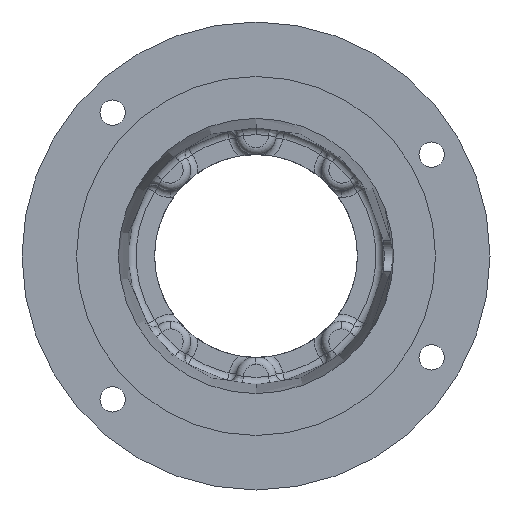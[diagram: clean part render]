
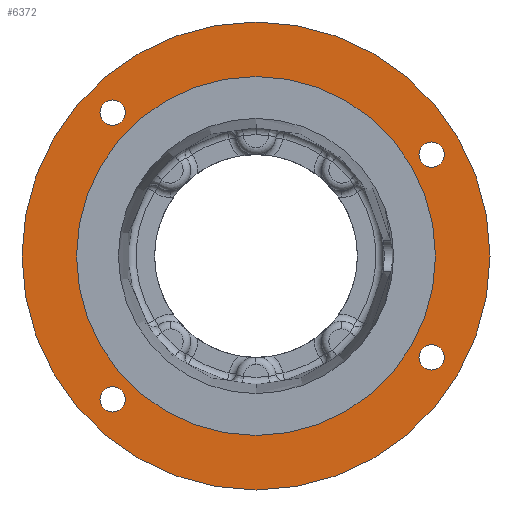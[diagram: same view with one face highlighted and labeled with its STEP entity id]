
A CAD part, front view. The second image highlights one B-rep face of the part: STEP entity #6372.
In plain terms, the highlighted planar face has unit normal (0, -1, 0).
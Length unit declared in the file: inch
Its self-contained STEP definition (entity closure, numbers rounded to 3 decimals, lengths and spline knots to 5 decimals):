
#63 = DIRECTION ( 'NONE',  ( 0., 1., 0. ) ) ;
#68 = EDGE_CURVE ( 'NONE', #7101, #4045, #6628, .T. ) ;
#113 = CARTESIAN_POINT ( 'NONE',  ( -2.21397, 0., 0. ) ) ;
#128 = DIRECTION ( 'NONE',  ( 0., 0., 1. ) ) ;
#155 = DIRECTION ( 'NONE',  ( 0., 1., 0. ) ) ;
#190 = EDGE_CURVE ( 'NONE', #1614, #5548, #936, .T. ) ;
#264 = AXIS2_PLACEMENT_3D ( 'NONE', #7263, #2777, #6610 ) ;
#424 = AXIS2_PLACEMENT_3D ( 'NONE', #880, #5351, #1505 ) ;
#451 = EDGE_CURVE ( 'NONE', #5495, #2427, #2551, .T. ) ;
#616 = EDGE_LOOP ( 'NONE', ( #7088, #6331 ) ) ;
#786 = CARTESIAN_POINT ( 'NONE',  ( -2.2981, 0., -2.2981 ) ) ;
#843 = FACE_BOUND ( 'NONE', #616, .T. ) ;
#880 = CARTESIAN_POINT ( 'NONE',  ( 0., 0., 0. ) ) ;
#927 = EDGE_LOOP ( 'NONE', ( #4183, #1654 ) ) ;
#936 = CIRCLE ( 'NONE', #1637, 2.876 ) ;
#947 = ORIENTED_EDGE ( 'NONE', *, *, #5188, .T. ) ;
#1006 = CARTESIAN_POINT ( 'NONE',  ( 2.81458, 0., 1.625 ) ) ;
#1050 = ORIENTED_EDGE ( 'NONE', *, *, #5774, .T. ) ;
#1086 = AXIS2_PLACEMENT_3D ( 'NONE', #3175, #7666, #3837 ) ;
#1094 = AXIS2_PLACEMENT_3D ( 'NONE', #5175, #1347, #5820 ) ;
#1168 = EDGE_LOOP ( 'NONE', ( #1050, #947 ) ) ;
#1347 = DIRECTION ( 'NONE',  ( 0., 1., 0. ) ) ;
#1505 = DIRECTION ( 'NONE',  ( 0., 0., -1. ) ) ;
#1614 = VERTEX_POINT ( 'NONE', #5177 ) ;
#1621 = DIRECTION ( 'NONE',  ( 0., 0., 1. ) ) ;
#1637 = AXIS2_PLACEMENT_3D ( 'NONE', #7444, #2956, #6789 ) ;
#1654 = ORIENTED_EDGE ( 'NONE', *, *, #5558, .F. ) ;
#1677 = DIRECTION ( 'NONE',  ( 0., -1., 0. ) ) ;
#1742 = EDGE_CURVE ( 'NONE', #2427, #5495, #6767, .T. ) ;
#1767 = CARTESIAN_POINT ( 'NONE',  ( -2.2981, 0., 2.2981 ) ) ;
#2094 = VERTEX_POINT ( 'NONE', #5784 ) ;
#2177 = DIRECTION ( 'NONE',  ( 0., -1., 0. ) ) ;
#2212 = ORIENTED_EDGE ( 'NONE', *, *, #5011, .T. ) ;
#2251 = ORIENTED_EDGE ( 'NONE', *, *, #8272, .T. ) ;
#2276 = CARTESIAN_POINT ( 'NONE',  ( -2.2981, 0., 2.2981 ) ) ;
#2316 = AXIS2_PLACEMENT_3D ( 'NONE', #2992, #63, #5567 ) ;
#2393 = DIRECTION ( 'NONE',  ( 0., 0., 1. ) ) ;
#2427 = VERTEX_POINT ( 'NONE', #7541 ) ;
#2506 = FACE_BOUND ( 'NONE', #8056, .T. ) ;
#2551 = CIRCLE ( 'NONE', #2316, 0.20312 ) ;
#2679 = PLANE ( 'NONE',  #3972 ) ;
#2713 = AXIS2_PLACEMENT_3D ( 'NONE', #5519, #1677, #6165 ) ;
#2742 = CIRCLE ( 'NONE', #1086, 0.20312 ) ;
#2777 = DIRECTION ( 'NONE',  ( 0., 1., 0. ) ) ;
#2880 = EDGE_CURVE ( 'NONE', #4045, #7101, #2742, .T. ) ;
#2932 = DIRECTION ( 'NONE',  ( 0., 0., 1. ) ) ;
#2956 = DIRECTION ( 'NONE',  ( 0., -1., 0. ) ) ;
#2992 = CARTESIAN_POINT ( 'NONE',  ( 2.81458, 0., -1.625 ) ) ;
#3100 = CIRCLE ( 'NONE', #424, 3.75 ) ;
#3123 = FACE_BOUND ( 'NONE', #927, .T. ) ;
#3154 = ORIENTED_EDGE ( 'NONE', *, *, #2880, .T. ) ;
#3175 = CARTESIAN_POINT ( 'NONE',  ( -2.2981, 0., -2.2981 ) ) ;
#3650 = AXIS2_PLACEMENT_3D ( 'NONE', #1006, #5479, #1621 ) ;
#3753 = VERTEX_POINT ( 'NONE', #6781 ) ;
#3837 = DIRECTION ( 'NONE',  ( 0., 0., 1. ) ) ;
#3848 = VERTEX_POINT ( 'NONE', #8110 ) ;
#3972 = AXIS2_PLACEMENT_3D ( 'NONE', #113, #155, #4639 ) ;
#4045 = VERTEX_POINT ( 'NONE', #5796 ) ;
#4137 = CIRCLE ( 'NONE', #2713, 2.876 ) ;
#4183 = ORIENTED_EDGE ( 'NONE', *, *, #190, .F. ) ;
#4214 = CARTESIAN_POINT ( 'NONE',  ( 0., 0., 2.876 ) ) ;
#4436 = EDGE_CURVE ( 'NONE', #2094, #3848, #7015, .T. ) ;
#4464 = VERTEX_POINT ( 'NONE', #8174 ) ;
#4506 = ORIENTED_EDGE ( 'NONE', *, *, #68, .T. ) ;
#4613 = EDGE_LOOP ( 'NONE', ( #3154, #4506 ) ) ;
#4618 = DIRECTION ( 'NONE',  ( 0., 1., 0. ) ) ;
#4635 = CIRCLE ( 'NONE', #1094, 0.20312 ) ;
#4639 = DIRECTION ( 'NONE',  ( 0., 0., 1. ) ) ;
#4898 = CARTESIAN_POINT ( 'NONE',  ( 0., 0., 3.75 ) ) ;
#5011 = EDGE_CURVE ( 'NONE', #3753, #4464, #4635, .T. ) ;
#5030 = CIRCLE ( 'NONE', #3650, 0.20312 ) ;
#5175 = CARTESIAN_POINT ( 'NONE',  ( 2.81458, 0., 1.625 ) ) ;
#5177 = CARTESIAN_POINT ( 'NONE',  ( 0., 0., -2.876 ) ) ;
#5188 = EDGE_CURVE ( 'NONE', #8306, #6129, #7213, .T. ) ;
#5351 = DIRECTION ( 'NONE',  ( 0., -1., 0. ) ) ;
#5375 = CARTESIAN_POINT ( 'NONE',  ( 0., 0., -3.75 ) ) ;
#5479 = DIRECTION ( 'NONE',  ( 0., 1., 0. ) ) ;
#5495 = VERTEX_POINT ( 'NONE', #7976 ) ;
#5519 = CARTESIAN_POINT ( 'NONE',  ( 0., 0., 0. ) ) ;
#5548 = VERTEX_POINT ( 'NONE', #4214 ) ;
#5558 = EDGE_CURVE ( 'NONE', #5548, #1614, #4137, .T. ) ;
#5567 = DIRECTION ( 'NONE',  ( 0., 0., 1. ) ) ;
#5653 = ORIENTED_EDGE ( 'NONE', *, *, #4436, .T. ) ;
#5655 = CARTESIAN_POINT ( 'NONE',  ( -2.2981, 0., -2.50122 ) ) ;
#5734 = FACE_OUTER_BOUND ( 'NONE', #1168, .T. ) ;
#5774 = EDGE_CURVE ( 'NONE', #6129, #8306, #3100, .T. ) ;
#5784 = CARTESIAN_POINT ( 'NONE',  ( -2.2981, 0., 2.50122 ) ) ;
#5796 = CARTESIAN_POINT ( 'NONE',  ( -2.2981, 0., -2.09497 ) ) ;
#5820 = DIRECTION ( 'NONE',  ( 0., 0., 1. ) ) ;
#6024 = CARTESIAN_POINT ( 'NONE',  ( 0., 0., 0. ) ) ;
#6099 = AXIS2_PLACEMENT_3D ( 'NONE', #786, #4618, #128 ) ;
#6129 = VERTEX_POINT ( 'NONE', #5375 ) ;
#6165 = DIRECTION ( 'NONE',  ( 0., 0., -1. ) ) ;
#6234 = AXIS2_PLACEMENT_3D ( 'NONE', #6024, #2177, #6667 ) ;
#6255 = DIRECTION ( 'NONE',  ( 0., 1., 0. ) ) ;
#6331 = ORIENTED_EDGE ( 'NONE', *, *, #451, .T. ) ;
#6372 = ADVANCED_FACE ( 'NONE', ( #3123, #843, #7631, #2506, #7445, #5734 ), #2679, .F. ) ;
#6610 = DIRECTION ( 'NONE',  ( 0., 0., 1. ) ) ;
#6628 = CIRCLE ( 'NONE', #6099, 0.20312 ) ;
#6667 = DIRECTION ( 'NONE',  ( 0., 0., -1. ) ) ;
#6715 = AXIS2_PLACEMENT_3D ( 'NONE', #1767, #6255, #2393 ) ;
#6751 = EDGE_LOOP ( 'NONE', ( #7742, #2212 ) ) ;
#6767 = CIRCLE ( 'NONE', #264, 0.20312 ) ;
#6776 = DIRECTION ( 'NONE',  ( 0., 1., 0. ) ) ;
#6781 = CARTESIAN_POINT ( 'NONE',  ( 2.81458, 0., 1.42187 ) ) ;
#6789 = DIRECTION ( 'NONE',  ( 0., 0., -1. ) ) ;
#6846 = EDGE_CURVE ( 'NONE', #4464, #3753, #5030, .T. ) ;
#7015 = CIRCLE ( 'NONE', #6715, 0.20312 ) ;
#7088 = ORIENTED_EDGE ( 'NONE', *, *, #1742, .T. ) ;
#7101 = VERTEX_POINT ( 'NONE', #5655 ) ;
#7213 = CIRCLE ( 'NONE', #6234, 3.75 ) ;
#7263 = CARTESIAN_POINT ( 'NONE',  ( 2.81458, 0., -1.625 ) ) ;
#7434 = CIRCLE ( 'NONE', #7993, 0.20312 ) ;
#7444 = CARTESIAN_POINT ( 'NONE',  ( 0., 0., 0. ) ) ;
#7445 = FACE_BOUND ( 'NONE', #6751, .T. ) ;
#7541 = CARTESIAN_POINT ( 'NONE',  ( 2.81458, 0., -1.42187 ) ) ;
#7631 = FACE_BOUND ( 'NONE', #4613, .T. ) ;
#7666 = DIRECTION ( 'NONE',  ( 0., 1., 0. ) ) ;
#7742 = ORIENTED_EDGE ( 'NONE', *, *, #6846, .T. ) ;
#7976 = CARTESIAN_POINT ( 'NONE',  ( 2.81458, 0., -1.82812 ) ) ;
#7993 = AXIS2_PLACEMENT_3D ( 'NONE', #2276, #6776, #2932 ) ;
#8056 = EDGE_LOOP ( 'NONE', ( #5653, #2251 ) ) ;
#8110 = CARTESIAN_POINT ( 'NONE',  ( -2.2981, 0., 2.09497 ) ) ;
#8174 = CARTESIAN_POINT ( 'NONE',  ( 2.81458, 0., 1.82812 ) ) ;
#8272 = EDGE_CURVE ( 'NONE', #3848, #2094, #7434, .T. ) ;
#8306 = VERTEX_POINT ( 'NONE', #4898 ) ;
